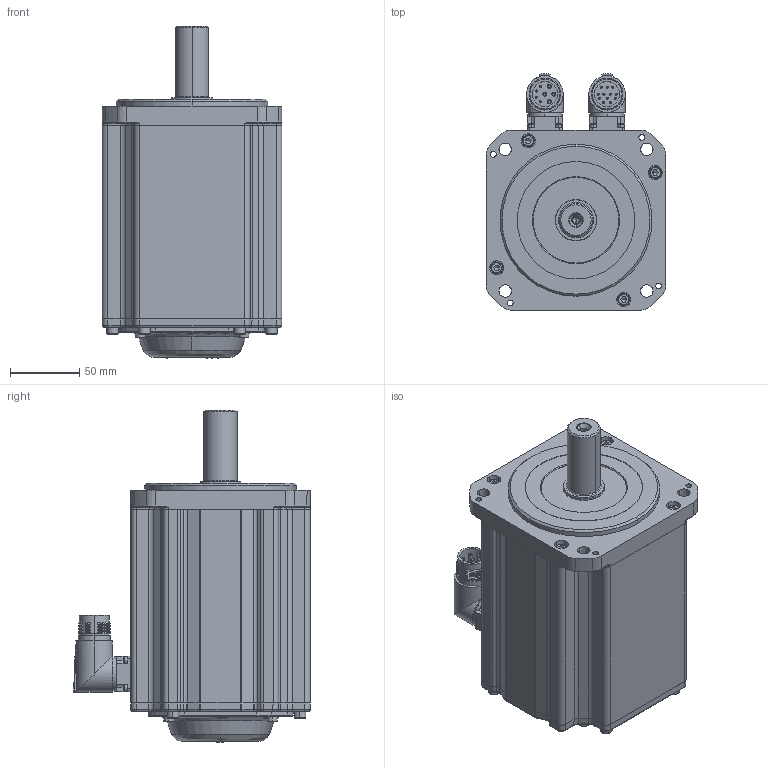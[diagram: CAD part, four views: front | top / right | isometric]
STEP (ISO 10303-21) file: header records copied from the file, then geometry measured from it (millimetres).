
FILE_DESCRIPTION (( 'STEP AP203' ), '1' );
FILE_NAME ('MC20-130-3M15-N132-1¡õPL-NNNN.STEP', '2025-07-29T15:06:50', ( '' ), ( '' ), 'SwSTEP 2.0', 'SolidWorks 2014', '' );
FILE_SCHEMA (( 'CONFIG_CONTROL_DESIGN' ));
Length unit declared in the file: millimetre
Products named in the file (1): MC20-130-3M15-N132-1¡õPL-NNNN
Bounding box: 130 x 171.35 x 240.3 mm (x, y, z)
Volume: 2664034.9 mm3; surface area: 278760.9 mm2
Topology: 28 solids, 28 shells, 2022 faces, 4794 edges, 2857 vertices
Faces by surface type: plane 733, cylinder 567, cone 358, bspline 204, torus 148, sphere 12
Entity records: 62107 total; most frequent: CARTESIAN_POINT 16808, DIRECTION 9523, ORIENTED_EDGE 9364, EDGE_CURVE 4682, AXIS2_PLACEMENT_3D 3694, VERTEX_POINT 2857, EDGE_LOOP 2269, VECTOR 2135
